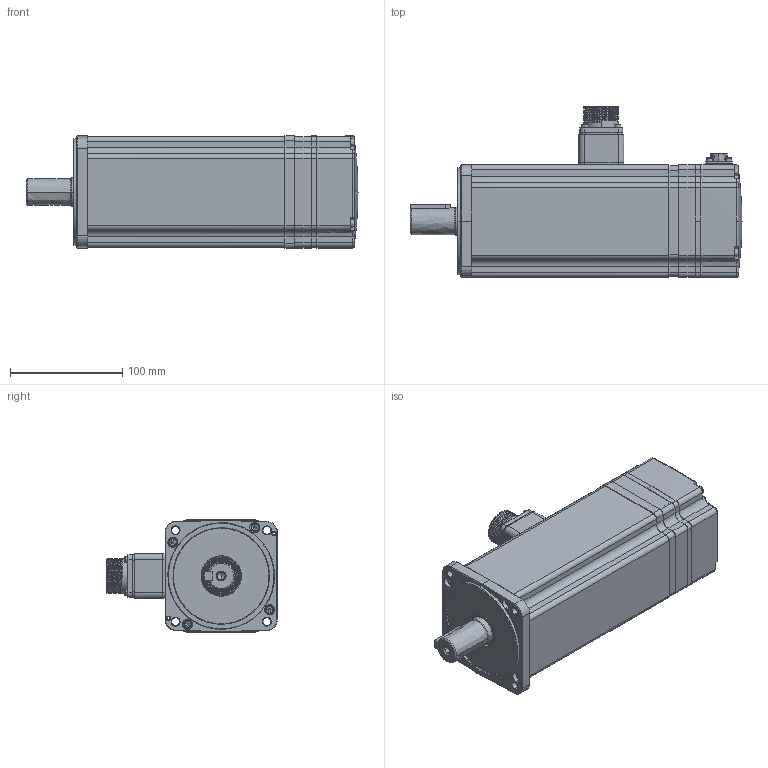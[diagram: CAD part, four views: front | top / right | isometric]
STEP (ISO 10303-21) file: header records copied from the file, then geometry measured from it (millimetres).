
FILE_DESCRIPTION (( 'STEP AP214' ), '1' );
FILE_NAME ('EM3A-20(±§Õ¢).STEP', '2020-04-08T05:05:02', ( '' ), ( '' ), 'SwSTEP 2.0', 'SolidWorks 2018', '' );
FILE_SCHEMA (( 'AUTOMOTIVE_DESIGN' ));
Length unit declared in the file: millimetre
Products named in the file (48): 复件 EM3A15A-410-A-S（编码器罩）^EM3A-20(抱闸).IGS; hexagon socket head cap screws gb_GB_FASTENER_SCREWS_HSHCS M3X20-NHDA.IGS; 复件 10产品装配_1^复件 插座  SC-CMV1-R10P_EM3A-20(抱闸).IGS; 复件 EM3A20A-133-A-S（编码器底座）^EM3A-20(抱闸).IGS; hexagon socket head cap screws gb_GB_FASTENER_SCREWS_HSHCS M4X20-NHDA.IGS; 复件 EM3A20A-132-A-S（隔热件）^EM3A-20(抱闸).IGS; 复件 EM3A20A-130-A-S（后端盖）^EM3A-20(抱闸).IGS; 复件 EM3A20A-210-A1-S（机壳）^EM3A-20(抱闸).IGS; 复件 EM3A20A-310-A-S（轴）^EM3A-20(抱闸).IGS; 复件 EM3A20A-120-A-S（前端盖）^EM3A-20(抱闸).IGS; EM3A-20(惕掅); EM3A-20(惕掅).IGS; 复件 半圆头普通平键  C8×36^EM3A-20(抱闸).IGS; 葩璃 脣釱  HMS3102E20-18P[L]^EM3A-20(惕掅).IGS; 葩璃 蚐猾 ^EM3A-20(惕掅).IGS; 复件 EMG10A-270-B(电源引线盒)^EM3A-20(抱闸).IGS; 复件 EMG10A-280-B（电源引线垫）^EM3A-20(抱闸).IGS; 复件 10产品装配^复件 插座  SC-CMV1-R10P_EM3A-20(抱闸).IGS
Assembly tree (31 placements, depth 3):
  复件 EM3A15A-410-A-S（编码器罩）^EM3A-20(抱闸).IGS
  hexagon socket head cap screws gb_GB_FASTENER_SCREWS_HSHCS M3X20-NHDA.IGS
  hexagon socket head cap screws gb_GB_FASTENER_SCREWS_HSHCS M3X20-NHDA.IGS
  复件 EM3A20A-133-A-S（编码器底座）^EM3A-20(抱闸).IGS
  hexagon socket head cap screws gb_GB_FASTENER_SCREWS_HSHCS M3X20-NHDA.IGS
Bounding box: 295.5 x 152.05 x 100 mm (x, y, z)
Volume: 913445.1 mm3; surface area: 318653.8 mm2
Topology: 30 solids, 32 shells, 1643 faces, 4134 edges, 2626 vertices
Faces by surface type: bspline 1643
Entity records: 60661 total; most frequent: CARTESIAN_POINT 36881, ORIENTED_EDGE 6600, EDGE_CURVE 3308, B_SPLINE_CURVE_WITH_KNOTS 2347, VERTEX_POINT 2164, EDGE_LOOP 1584, FACE_OUTER_BOUND 1293, ADVANCED_FACE 1293
